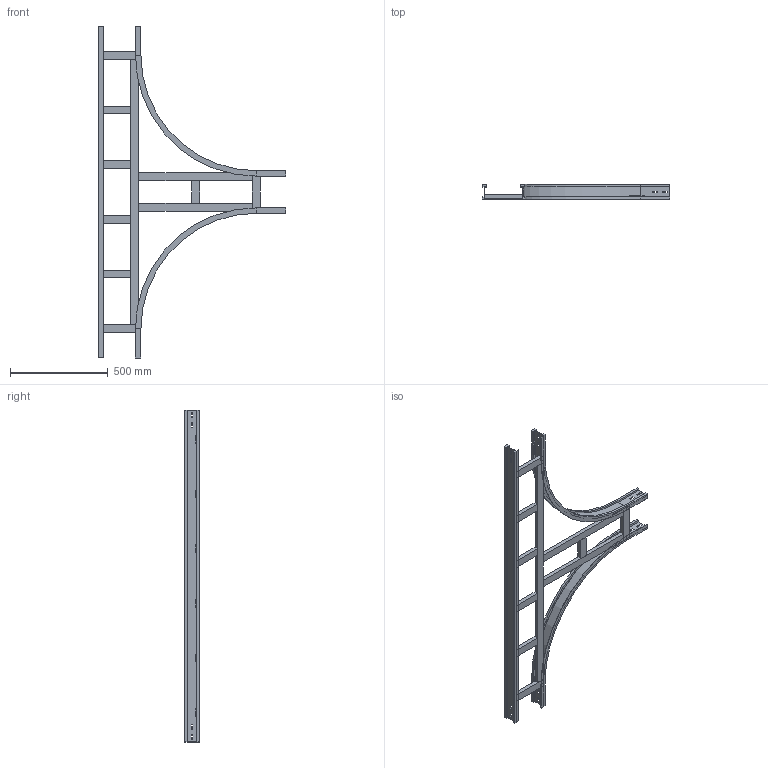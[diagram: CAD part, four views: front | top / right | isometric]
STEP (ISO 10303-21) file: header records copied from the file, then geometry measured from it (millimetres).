
FILE_DESCRIPTION (( 'STEP AP214' ), '1' );
FILE_NAME ('15S6C200.step', '2025-02-21T16:15:15', ( '' ), ( '' ), 'SwSTEP 2.0', 'SolidWorks 2023', '' );
FILE_SCHEMA (( 'AUTOMOTIVE_DESIGN' ));
Length unit declared in the file: millimetre
Products named in the file (8): TRAVERSINO_COPPIA_200; TRAVERSINO_VERT_R600; 15S6C200; TRAVERSINO_LONG._R600+200; TRAVERSINO_INTERMEDIO_R600+200; LONGH.RETT_H75_R600+200; LONGH.INTERNO 90°_H75_R600; TRAVERSINO_200
Assembly tree (14 placements, depth 2):
  15S6C200
    LONGH.INTERNO 90°_H75_R600  x2
    LONGH.RETT_H75_R600+200
    TRAVERSINO_200  x3
    TRAVERSINO_LONG._R600+200
    TRAVERSINO_INTERMEDIO_R600+200  x4
    TRAVERSINO_VERT_R600  x2
    TRAVERSINO_COPPIA_200
Bounding box: 959 x 75 x 1700 mm (x, y, z)
Volume: 5181836.8 mm3; surface area: 1518079.4 mm2
Topology: 14 solids, 14 shells, 204 faces, 480 edges, 304 vertices
Faces by surface type: plane 192, cylinder 12
Entity records: 3581 total; most frequent: CARTESIAN_POINT 583, ORIENTED_EDGE 552, DIRECTION 550, EDGE_CURVE 276, VECTOR 264, LINE 264, VERTEX_POINT 176, AXIS2_PLACEMENT_3D 143
